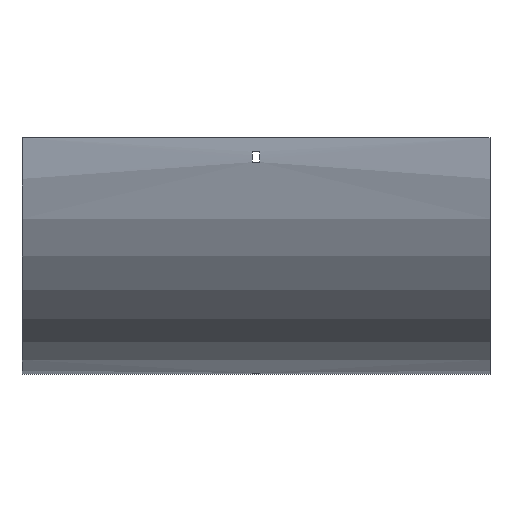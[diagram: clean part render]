
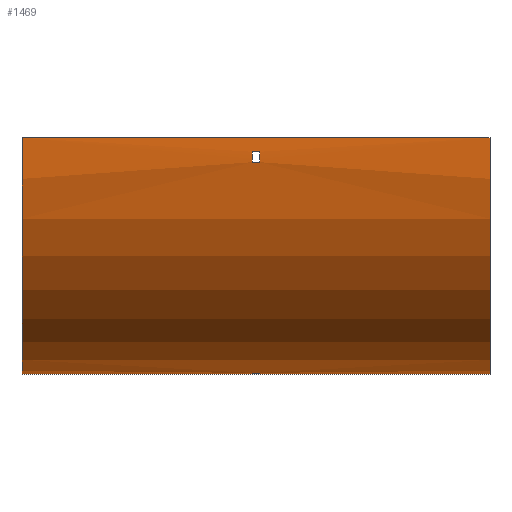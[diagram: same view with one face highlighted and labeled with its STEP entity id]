
A CAD part, front view. The second image highlights one B-rep face of the part: STEP entity #1469.
In plain terms, the highlighted cylindrical face has radius 204 mm (diameter 408 mm), a partial arc.
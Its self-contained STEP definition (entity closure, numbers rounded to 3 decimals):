
#16 = CARTESIAN_POINT ( 'NONE',  ( 3.25, -102.916, -21. ) ) ;
#34 = VERTEX_POINT ( 'NONE', #1171 ) ;
#70 = CIRCLE ( 'NONE', #427, 204. ) ;
#103 = CARTESIAN_POINT ( 'NONE',  ( 202., -102.916, -21. ) ) ;
#134 = LINE ( 'NONE', #143, #650 ) ;
#137 = VECTOR ( 'NONE', #301, 1000. ) ;
#143 = CARTESIAN_POINT ( 'NONE',  ( 202., 100., -204. ) ) ;
#149 = AXIS2_PLACEMENT_3D ( 'NONE', #769, #1520, #1433 ) ;
#166 = ORIENTED_EDGE ( 'NONE', *, *, #877, .T. ) ;
#176 = VERTEX_POINT ( 'NONE', #1086 ) ;
#220 = CIRCLE ( 'NONE', #1207, 204. ) ;
#236 = EDGE_CURVE ( 'NONE', #34, #1033, #1362, .T. ) ;
#253 = EDGE_LOOP ( 'NONE', ( #1216, #1060, #1079, #166 ) ) ;
#258 = ORIENTED_EDGE ( 'NONE', *, *, #1564, .T. ) ;
#262 = DIRECTION ( 'NONE',  ( -1., 0., 0. ) ) ;
#269 = CARTESIAN_POINT ( 'NONE',  ( 202., 79., -202.916 ) ) ;
#301 = DIRECTION ( 'NONE',  ( 1., 0., 0. ) ) ;
#312 = CARTESIAN_POINT ( 'NONE',  ( 202., -103.647, -12. ) ) ;
#314 = CIRCLE ( 'NONE', #568, 204. ) ;
#318 = CARTESIAN_POINT ( 'NONE',  ( 202., -104., 0. ) ) ;
#326 = VERTEX_POINT ( 'NONE', #846 ) ;
#328 = CARTESIAN_POINT ( 'NONE',  ( -3.25, -103.647, -12. ) ) ;
#342 = DIRECTION ( 'NONE',  ( 1., 0., 0. ) ) ;
#350 = CARTESIAN_POINT ( 'NONE',  ( -202., 100., -204. ) ) ;
#372 = CARTESIAN_POINT ( 'NONE',  ( -3.25, 79., -202.916 ) ) ;
#377 = DIRECTION ( 'NONE',  ( 0., 0., 1. ) ) ;
#379 = ORIENTED_EDGE ( 'NONE', *, *, #236, .F. ) ;
#385 = FACE_OUTER_BOUND ( 'NONE', #253, .T. ) ;
#386 = VERTEX_POINT ( 'NONE', #328 ) ;
#397 = VERTEX_POINT ( 'NONE', #16 ) ;
#411 = EDGE_CURVE ( 'NONE', #850, #576, #134, .T. ) ;
#415 = VECTOR ( 'NONE', #1655, 1000. ) ;
#419 = DIRECTION ( 'NONE',  ( 0., 0., 1. ) ) ;
#424 = CARTESIAN_POINT ( 'NONE',  ( 202., 100., -204. ) ) ;
#427 = AXIS2_PLACEMENT_3D ( 'NONE', #1470, #569, #419 ) ;
#448 = ORIENTED_EDGE ( 'NONE', *, *, #1442, .F. ) ;
#468 = LINE ( 'NONE', #103, #415 ) ;
#471 = ORIENTED_EDGE ( 'NONE', *, *, #546, .T. ) ;
#534 = EDGE_CURVE ( 'NONE', #1033, #326, #220, .T. ) ;
#540 = EDGE_CURVE ( 'NONE', #176, #397, #1431, .T. ) ;
#546 = EDGE_CURVE ( 'NONE', #397, #1488, #468, .T. ) ;
#568 = AXIS2_PLACEMENT_3D ( 'NONE', #873, #1381, #377 ) ;
#569 = DIRECTION ( 'NONE',  ( -1., 0., 0. ) ) ;
#576 = VERTEX_POINT ( 'NONE', #350 ) ;
#591 = LINE ( 'NONE', #1234, #1617 ) ;
#605 = DIRECTION ( 'NONE',  ( 1., 0., 0. ) ) ;
#613 = DIRECTION ( 'NONE',  ( 1., 0., 0. ) ) ;
#614 = DIRECTION ( 'NONE',  ( 1., 0., 0. ) ) ;
#629 = VERTEX_POINT ( 'NONE', #1662 ) ;
#638 = DIRECTION ( 'NONE',  ( -1., 0., 0. ) ) ;
#650 = VECTOR ( 'NONE', #638, 1000. ) ;
#707 = LINE ( 'NONE', #1634, #137 ) ;
#735 = CARTESIAN_POINT ( 'NONE',  ( -3.25, -102.916, -21. ) ) ;
#747 = CIRCLE ( 'NONE', #1371, 204. ) ;
#750 = VERTEX_POINT ( 'NONE', #318 ) ;
#769 = CARTESIAN_POINT ( 'NONE',  ( 202., 100., 0. ) ) ;
#773 = EDGE_CURVE ( 'NONE', #750, #850, #1533, .T. ) ;
#778 = AXIS2_PLACEMENT_3D ( 'NONE', #1660, #605, #1645 ) ;
#800 = LINE ( 'NONE', #312, #1343 ) ;
#846 = CARTESIAN_POINT ( 'NONE',  ( -3.25, 88., -203.647 ) ) ;
#850 = VERTEX_POINT ( 'NONE', #424 ) ;
#851 = EDGE_CURVE ( 'NONE', #326, #629, #707, .T. ) ;
#872 = EDGE_LOOP ( 'NONE', ( #1243, #379, #448, #1022 ) ) ;
#873 = CARTESIAN_POINT ( 'NONE',  ( 3.25, 100., 0. ) ) ;
#877 = EDGE_CURVE ( 'NONE', #750, #1088, #591, .T. ) ;
#904 = DIRECTION ( 'NONE',  ( 1., 0., 0. ) ) ;
#932 = ORIENTED_EDGE ( 'NONE', *, *, #540, .T. ) ;
#961 = EDGE_CURVE ( 'NONE', #1088, #576, #747, .T. ) ;
#1001 = CYLINDRICAL_SURFACE ( 'NONE', #149, 204. ) ;
#1006 = DIRECTION ( 'NONE',  ( 0., 1., 0. ) ) ;
#1011 = CARTESIAN_POINT ( 'NONE',  ( -202., 100., 0. ) ) ;
#1022 = ORIENTED_EDGE ( 'NONE', *, *, #851, .F. ) ;
#1026 = CARTESIAN_POINT ( 'NONE',  ( -202., -104., 0. ) ) ;
#1033 = VERTEX_POINT ( 'NONE', #372 ) ;
#1060 = ORIENTED_EDGE ( 'NONE', *, *, #411, .F. ) ;
#1079 = ORIENTED_EDGE ( 'NONE', *, *, #773, .F. ) ;
#1086 = CARTESIAN_POINT ( 'NONE',  ( 3.25, -103.647, -12. ) ) ;
#1088 = VERTEX_POINT ( 'NONE', #1026 ) ;
#1129 = DIRECTION ( 'NONE',  ( 0., 0., -1. ) ) ;
#1171 = CARTESIAN_POINT ( 'NONE',  ( 3.25, 79., -202.916 ) ) ;
#1196 = DIRECTION ( 'NONE',  ( 0., 0., -1. ) ) ;
#1207 = AXIS2_PLACEMENT_3D ( 'NONE', #1667, #614, #1006 ) ;
#1216 = ORIENTED_EDGE ( 'NONE', *, *, #961, .T. ) ;
#1234 = CARTESIAN_POINT ( 'NONE',  ( 202., -104., 0. ) ) ;
#1243 = ORIENTED_EDGE ( 'NONE', *, *, #534, .F. ) ;
#1249 = FACE_BOUND ( 'NONE', #872, .T. ) ;
#1264 = ORIENTED_EDGE ( 'NONE', *, *, #1653, .T. ) ;
#1287 = CARTESIAN_POINT ( 'NONE',  ( 202., 100., 0. ) ) ;
#1343 = VECTOR ( 'NONE', #342, 1000. ) ;
#1351 = DIRECTION ( 'NONE',  ( -1., 0., 0. ) ) ;
#1362 = LINE ( 'NONE', #269, #1453 ) ;
#1370 = FACE_BOUND ( 'NONE', #1376, .T. ) ;
#1371 = AXIS2_PLACEMENT_3D ( 'NONE', #1011, #613, #1129 ) ;
#1376 = EDGE_LOOP ( 'NONE', ( #471, #258, #1264, #932 ) ) ;
#1381 = DIRECTION ( 'NONE',  ( -1., 0., 0. ) ) ;
#1431 = CIRCLE ( 'NONE', #778, 204. ) ;
#1433 = DIRECTION ( 'NONE',  ( 0., 0., 1. ) ) ;
#1442 = EDGE_CURVE ( 'NONE', #629, #34, #314, .T. ) ;
#1453 = VECTOR ( 'NONE', #262, 1000. ) ;
#1469 = ADVANCED_FACE ( 'NONE', ( #385, #1370, #1249 ), #1001, .T. ) ;
#1470 = CARTESIAN_POINT ( 'NONE',  ( -3.25, 100., 0. ) ) ;
#1488 = VERTEX_POINT ( 'NONE', #735 ) ;
#1520 = DIRECTION ( 'NONE',  ( -1., 0., 0. ) ) ;
#1533 = CIRCLE ( 'NONE', #1672, 204. ) ;
#1564 = EDGE_CURVE ( 'NONE', #1488, #386, #70, .T. ) ;
#1617 = VECTOR ( 'NONE', #1351, 1000. ) ;
#1634 = CARTESIAN_POINT ( 'NONE',  ( 202., 88., -203.647 ) ) ;
#1645 = DIRECTION ( 'NONE',  ( 0., 0., -1. ) ) ;
#1653 = EDGE_CURVE ( 'NONE', #386, #176, #800, .T. ) ;
#1655 = DIRECTION ( 'NONE',  ( -1., 0., 0. ) ) ;
#1660 = CARTESIAN_POINT ( 'NONE',  ( 3.25, 100., 0. ) ) ;
#1662 = CARTESIAN_POINT ( 'NONE',  ( 3.25, 88., -203.647 ) ) ;
#1667 = CARTESIAN_POINT ( 'NONE',  ( -3.25, 100., 0. ) ) ;
#1672 = AXIS2_PLACEMENT_3D ( 'NONE', #1287, #904, #1196 ) ;
